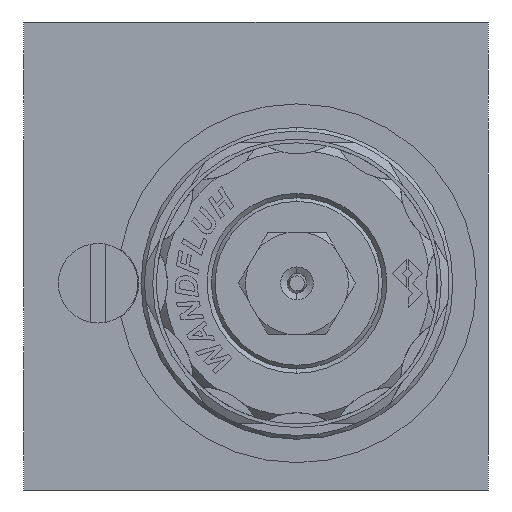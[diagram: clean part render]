
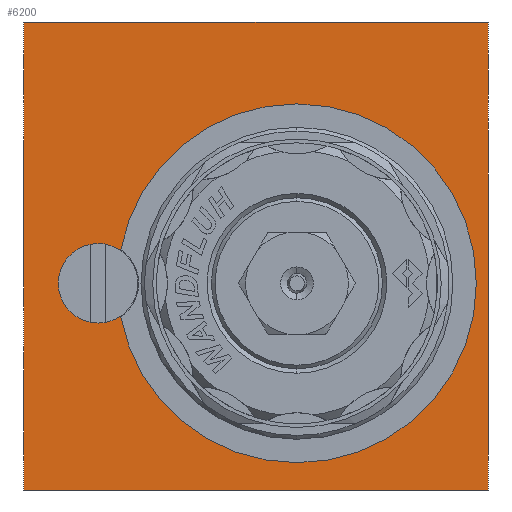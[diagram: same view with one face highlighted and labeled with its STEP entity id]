
A CAD part, left-side view. The second image highlights one B-rep face of the part: STEP entity #6200.
In plain terms, the highlighted planar face has unit normal (-1, 0, 0).
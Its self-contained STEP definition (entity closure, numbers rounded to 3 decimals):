
#912 = DIRECTION ( 'NONE',  ( 0., 0., 1. ) ) ;
#920 = CARTESIAN_POINT ( 'NONE',  ( 0., -5.25, -3.5 ) ) ;
#1059 = VERTEX_POINT ( 'NONE', #2598 ) ;
#1098 = ORIENTED_EDGE ( 'NONE', *, *, #4741, .F. ) ;
#1240 = EDGE_CURVE ( 'NONE', #10484, #22187, #6523, .T. ) ;
#1406 = AXIS2_PLACEMENT_3D ( 'NONE', #8488, #8493, #8516 ) ;
#1434 = VECTOR ( 'NONE', #19773, 1000. ) ;
#1518 = EDGE_CURVE ( 'NONE', #22187, #12216, #3075, .T. ) ;
#1541 = VERTEX_POINT ( 'NONE', #11336 ) ;
#2523 = CARTESIAN_POINT ( 'NONE',  ( 0., 17.363, -7.704 ) ) ;
#2598 = CARTESIAN_POINT ( 'NONE',  ( 0., 29.75, -30. ) ) ;
#3075 = CIRCLE ( 'NONE', #18468, 23. ) ;
#3278 = VECTOR ( 'NONE', #20542, 1000. ) ;
#3575 = CARTESIAN_POINT ( 'NONE',  ( 0., 17.363, 0.704 ) ) ;
#3725 = EDGE_CURVE ( 'NONE', #1059, #14028, #16477, .T. ) ;
#4098 = FACE_OUTER_BOUND ( 'NONE', #9445, .T. ) ;
#4134 = CARTESIAN_POINT ( 'NONE',  ( 0., 29.75, 30. ) ) ;
#4164 = DIRECTION ( 'NONE',  ( 0., 0., 1. ) ) ;
#4293 = DIRECTION ( 'NONE',  ( -1., 0., 0. ) ) ;
#4368 = CARTESIAN_POINT ( 'NONE',  ( 0., 20.25, -3.5 ) ) ;
#4385 = EDGE_CURVE ( 'NONE', #14949, #15401, #7815, .T. ) ;
#4511 = DIRECTION ( 'NONE',  ( 0., 0., 1. ) ) ;
#4741 = EDGE_CURVE ( 'NONE', #5016, #1059, #4877, .T. ) ;
#4877 = LINE ( 'NONE', #19748, #3278 ) ;
#5016 = VERTEX_POINT ( 'NONE', #12363 ) ;
#6200 = ADVANCED_FACE ( 'NONE', ( #7194, #4098 ), #8781, .T. ) ;
#6327 = DIRECTION ( 'NONE',  ( 0., 0., 1. ) ) ;
#6523 = CIRCLE ( 'NONE', #1406, 23. ) ;
#6675 = AXIS2_PLACEMENT_3D ( 'NONE', #4368, #4293, #4511 ) ;
#6912 = CIRCLE ( 'NONE', #18815, 23. ) ;
#7194 = FACE_BOUND ( 'NONE', #9331, .T. ) ;
#7569 = VERTEX_POINT ( 'NONE', #3575 ) ;
#7584 = CARTESIAN_POINT ( 'NONE',  ( 0., -5.25, -26.5 ) ) ;
#7815 = CIRCLE ( 'NONE', #6675, 5.1 ) ;
#8126 = CARTESIAN_POINT ( 'NONE',  ( 0., 20.25, -3.5 ) ) ;
#8166 = DIRECTION ( 'NONE',  ( 0., 0., 1. ) ) ;
#8170 = DIRECTION ( 'NONE',  ( -1., 0., 0. ) ) ;
#8188 = CARTESIAN_POINT ( 'NONE',  ( 0., 29.75, -30. ) ) ;
#8431 = ORIENTED_EDGE ( 'NONE', *, *, #14787, .F. ) ;
#8488 = CARTESIAN_POINT ( 'NONE',  ( 0., -5.25, -3.5 ) ) ;
#8493 = DIRECTION ( 'NONE',  ( -1., 0., 0. ) ) ;
#8516 = DIRECTION ( 'NONE',  ( 0., 0., 1. ) ) ;
#8781 = PLANE ( 'NONE',  #22341 ) ;
#9075 = LINE ( 'NONE', #19877, #1434 ) ;
#9331 = EDGE_LOOP ( 'NONE', ( #21839, #8431, #11526, #15543, #10991, #15002 ) ) ;
#9445 = EDGE_LOOP ( 'NONE', ( #1098, #18511, #20986, #17391 ) ) ;
#9461 = DIRECTION ( 'NONE',  ( 0., 0., 1. ) ) ;
#9492 = CARTESIAN_POINT ( 'NONE',  ( 0., 20.25, -3.5 ) ) ;
#9524 = DIRECTION ( 'NONE',  ( -1., 0., 0. ) ) ;
#9906 = DIRECTION ( 'NONE',  ( 0., 0., 1. ) ) ;
#9984 = DIRECTION ( 'NONE',  ( -1., 0., 0. ) ) ;
#10484 = VERTEX_POINT ( 'NONE', #2523 ) ;
#10639 = CARTESIAN_POINT ( 'NONE',  ( 0., -5.25, 19.5 ) ) ;
#10991 = ORIENTED_EDGE ( 'NONE', *, *, #21976, .F. ) ;
#11320 = CARTESIAN_POINT ( 'NONE',  ( 0., -5.25, -3.5 ) ) ;
#11336 = CARTESIAN_POINT ( 'NONE',  ( 0., -29.75, 30. ) ) ;
#11526 = ORIENTED_EDGE ( 'NONE', *, *, #1518, .F. ) ;
#11762 = EDGE_CURVE ( 'NONE', #1541, #5016, #17732, .T. ) ;
#12095 = DIRECTION ( 'NONE',  ( -1., 0., 0. ) ) ;
#12216 = VERTEX_POINT ( 'NONE', #10639 ) ;
#12363 = CARTESIAN_POINT ( 'NONE',  ( 0., -29.75, -30. ) ) ;
#13157 = AXIS2_PLACEMENT_3D ( 'NONE', #9492, #9524, #9461 ) ;
#14028 = VERTEX_POINT ( 'NONE', #14231 ) ;
#14231 = CARTESIAN_POINT ( 'NONE',  ( 0., 29.75, 30. ) ) ;
#14787 = EDGE_CURVE ( 'NONE', #12216, #7569, #6912, .T. ) ;
#14931 = AXIS2_PLACEMENT_3D ( 'NONE', #8126, #18578, #6327 ) ;
#14949 = VERTEX_POINT ( 'NONE', #18157 ) ;
#15002 = ORIENTED_EDGE ( 'NONE', *, *, #4385, .F. ) ;
#15341 = CIRCLE ( 'NONE', #13157, 5.1 ) ;
#15401 = VERTEX_POINT ( 'NONE', #17578 ) ;
#15409 = VECTOR ( 'NONE', #4164, 1000. ) ;
#15543 = ORIENTED_EDGE ( 'NONE', *, *, #1240, .F. ) ;
#15678 = CARTESIAN_POINT ( 'NONE',  ( 0., -29.75, 30. ) ) ;
#15799 = DIRECTION ( 'NONE',  ( 0., 0., -1. ) ) ;
#16477 = LINE ( 'NONE', #4134, #15409 ) ;
#17255 = EDGE_CURVE ( 'NONE', #7569, #14949, #15341, .T. ) ;
#17391 = ORIENTED_EDGE ( 'NONE', *, *, #3725, .F. ) ;
#17544 = EDGE_CURVE ( 'NONE', #14028, #1541, #9075, .T. ) ;
#17578 = CARTESIAN_POINT ( 'NONE',  ( 0., 20.25, -8.6 ) ) ;
#17668 = CIRCLE ( 'NONE', #14931, 5.1 ) ;
#17732 = LINE ( 'NONE', #15678, #19096 ) ;
#18157 = CARTESIAN_POINT ( 'NONE',  ( 0., 20.25, 1.6 ) ) ;
#18468 = AXIS2_PLACEMENT_3D ( 'NONE', #11320, #9984, #9906 ) ;
#18511 = ORIENTED_EDGE ( 'NONE', *, *, #11762, .F. ) ;
#18578 = DIRECTION ( 'NONE',  ( -1., 0., 0. ) ) ;
#18815 = AXIS2_PLACEMENT_3D ( 'NONE', #920, #12095, #912 ) ;
#19096 = VECTOR ( 'NONE', #15799, 1000. ) ;
#19748 = CARTESIAN_POINT ( 'NONE',  ( 0., -29.75, -30. ) ) ;
#19773 = DIRECTION ( 'NONE',  ( 0., -1., 0. ) ) ;
#19877 = CARTESIAN_POINT ( 'NONE',  ( 0., -29.75, 30. ) ) ;
#20542 = DIRECTION ( 'NONE',  ( 0., 1., 0. ) ) ;
#20986 = ORIENTED_EDGE ( 'NONE', *, *, #17544, .F. ) ;
#21839 = ORIENTED_EDGE ( 'NONE', *, *, #17255, .F. ) ;
#21976 = EDGE_CURVE ( 'NONE', #15401, #10484, #17668, .T. ) ;
#22187 = VERTEX_POINT ( 'NONE', #7584 ) ;
#22341 = AXIS2_PLACEMENT_3D ( 'NONE', #8188, #8170, #8166 ) ;
